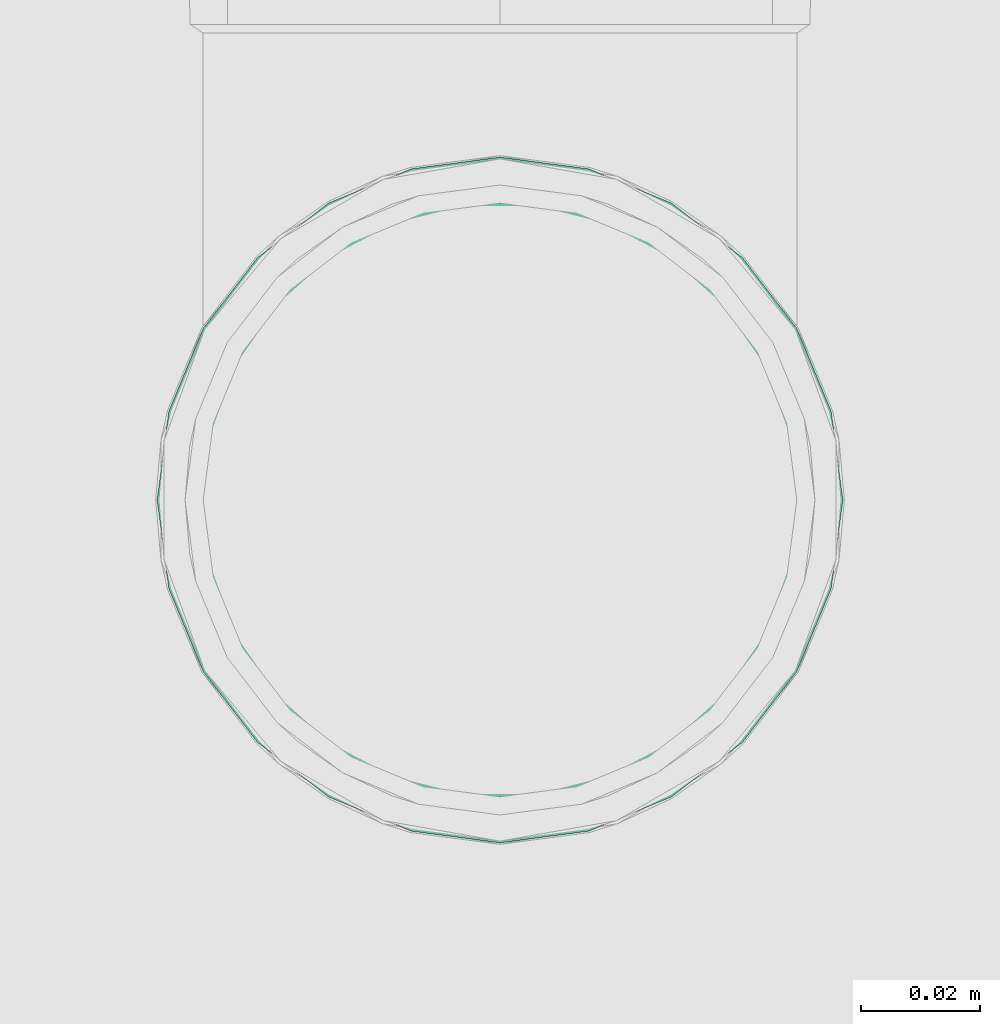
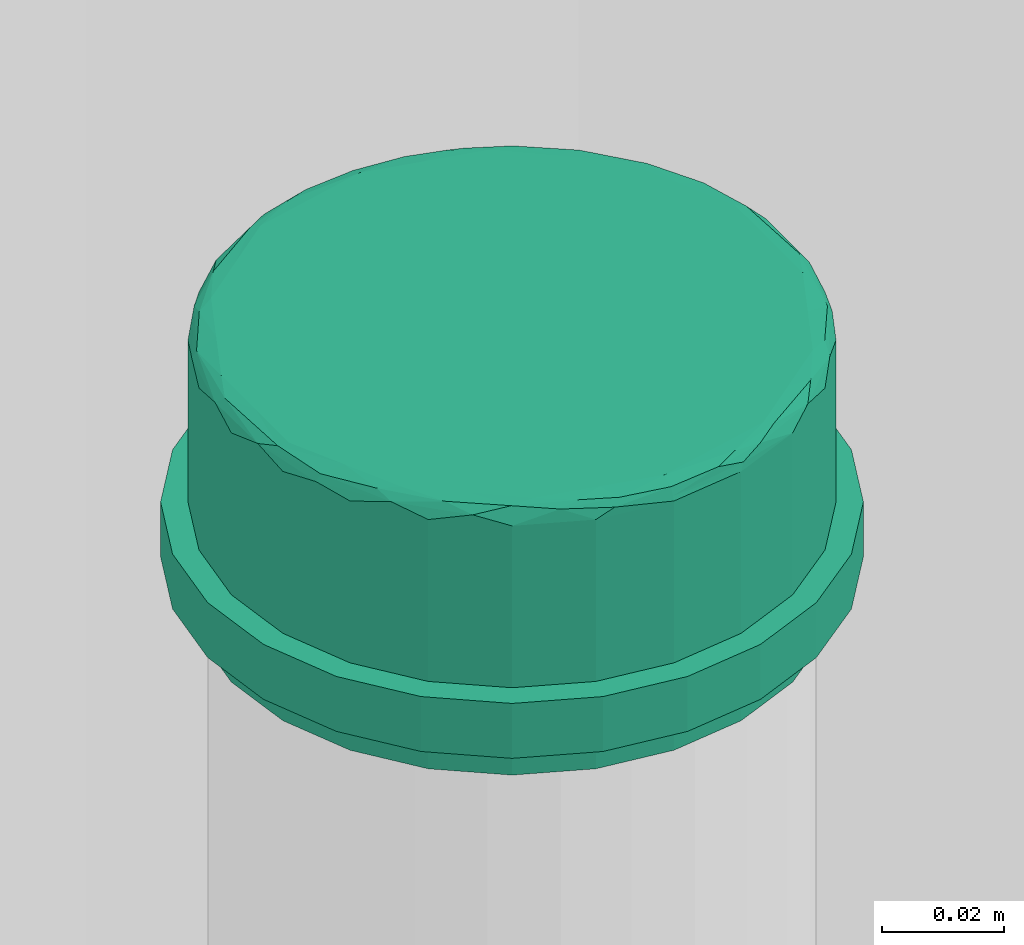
# One storey, part 178 of 589: 1 flow fitting.
"""IFC2X3 building model written with IfcOpenShell, lengths in millimetres."""

from ifc_helpers import new_model, entity, si_unit, converted_unit, derived_unit, direction, frame, origin, place, context, subcontext, project, spatial, faceted_brep, source, transform, mapped, material, type_object, type_shapes, element, save


model = new_model("IFC2X3")

# Units and contexts
model_context = context("Model", 3, precision=0.01, world=origin(), true_north=direction((6.123031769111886e-17, 1.0)))
body_context = subcontext(model_context, "Body", "Model", "MODEL_VIEW")
ifc_project = project(units=[si_unit("LENGTHUNIT", "METRE", prefix="MILLI"), si_unit("AREAUNIT", "SQUARE_METRE"), si_unit("VOLUMEUNIT", "CUBIC_METRE"), converted_unit("PLANEANGLEUNIT", "DEGREE", entity("IfcRatioMeasure", 0.017453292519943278), si_unit("PLANEANGLEUNIT", "RADIAN"), dimensions=[0, 0, 0, 0, 0, 0, 0]), si_unit("MASSUNIT", "GRAM", prefix="KILO"), derived_unit("MASSDENSITYUNIT", [(si_unit("MASSUNIT", "GRAM", prefix="KILO"), 1), (si_unit("LENGTHUNIT", "METRE"), -3)]), derived_unit("IONCONCENTRATIONUNIT", [(si_unit("MASSUNIT", "GRAM", prefix="KILO"), 1), (si_unit("LENGTHUNIT", "METRE"), -3)]), derived_unit("MOMENTOFINERTIAUNIT", [(si_unit("LENGTHUNIT", "METRE"), 4)]), si_unit("TIMEUNIT", "SECOND"), si_unit("FREQUENCYUNIT", "HERTZ"), si_unit("THERMODYNAMICTEMPERATUREUNIT", "DEGREE_CELSIUS"), derived_unit("THERMALTRANSMITTANCEUNIT", [(si_unit("MASSUNIT", "GRAM", prefix="KILO"), 1), (si_unit("THERMODYNAMICTEMPERATUREUNIT", "KELVIN"), -1), (si_unit("TIMEUNIT", "SECOND"), -3)]), derived_unit("THERMALCONDUCTANCEUNIT", [(si_unit("MASSUNIT", "GRAM", prefix="KILO"), 1), (si_unit("THERMODYNAMICTEMPERATUREUNIT", "KELVIN"), -1), (si_unit("TIMEUNIT", "SECOND"), -3), (si_unit("LENGTHUNIT", "METRE"), 1)]), derived_unit("VOLUMETRICFLOWRATEUNIT", [(si_unit("LENGTHUNIT", "METRE"), 3), (si_unit("TIMEUNIT", "SECOND"), -1)]), derived_unit("MASSFLOWRATEUNIT", [(si_unit("MASSUNIT", "GRAM", prefix="KILO"), 1), (si_unit("TIMEUNIT", "SECOND"), -1)]), derived_unit("ROTATIONALFREQUENCYUNIT", [(si_unit("TIMEUNIT", "SECOND"), -1)]), si_unit("ELECTRICCURRENTUNIT", "AMPERE"), si_unit("ELECTRICVOLTAGEUNIT", "VOLT"), si_unit("POWERUNIT", "WATT"), si_unit("FORCEUNIT", "NEWTON", prefix="KILO"), si_unit("ILLUMINANCEUNIT", "LUX"), si_unit("LUMINOUSFLUXUNIT", "LUMEN"), si_unit("LUMINOUSINTENSITYUNIT", "CANDELA"), derived_unit("USERDEFINED", [(si_unit("MASSUNIT", "GRAM", prefix="KILO"), -1), (si_unit("LENGTHUNIT", "METRE"), -2), (si_unit("TIMEUNIT", "SECOND"), 3), (si_unit("LUMINOUSFLUXUNIT", "LUMEN"), 1)]), derived_unit("USERDEFINED", [(si_unit("MASSUNIT", "GRAM", prefix="KILO"), 1), (si_unit("TIMEUNIT", "SECOND"), -3), (si_unit("LENGTHUNIT", "METRE"), 3), (si_unit("ELECTRICCURRENTUNIT", "AMPERE"), -2)]), derived_unit("SOUNDPOWERUNIT", [(si_unit("MASSUNIT", "GRAM", prefix="KILO"), 1), (si_unit("TIMEUNIT", "SECOND"), -3), (si_unit("LENGTHUNIT", "METRE"), 2)]), derived_unit("SOUNDPRESSUREUNIT", [(si_unit("MASSUNIT", "GRAM", prefix="KILO"), 1), (si_unit("LENGTHUNIT", "METRE"), -1), (si_unit("TIMEUNIT", "SECOND"), -2)]), derived_unit("LINEARVELOCITYUNIT", [(si_unit("LENGTHUNIT", "METRE"), 1), (si_unit("TIMEUNIT", "SECOND"), -1)]), si_unit("PRESSUREUNIT", "PASCAL"), derived_unit("USERDEFINED", [(si_unit("MASSUNIT", "GRAM", prefix="KILO"), 1), (si_unit("LENGTHUNIT", "METRE"), -2), (si_unit("TIMEUNIT", "SECOND"), -2)]), derived_unit("LINEARFORCEUNIT", [(si_unit("MASSUNIT", "GRAM", prefix="KILO"), 1), (si_unit("TIMEUNIT", "SECOND"), -2)]), derived_unit("PLANARFORCEUNIT", [(si_unit("MASSUNIT", "GRAM", prefix="KILO"), 1), (si_unit("LENGTHUNIT", "METRE"), -1), (si_unit("TIMEUNIT", "SECOND"), -2)]), derived_unit("SPECIFICHEATCAPACITYUNIT", [(si_unit("THERMODYNAMICTEMPERATUREUNIT", "KELVIN"), -1), (si_unit("LENGTHUNIT", "METRE"), 2), (si_unit("TIMEUNIT", "SECOND"), -2)]), derived_unit("HEATINGVALUEUNIT", [(si_unit("LENGTHUNIT", "METRE"), 2), (si_unit("TIMEUNIT", "SECOND"), -2)]), derived_unit("VAPORPERMEABILITYUNIT", [(si_unit("LENGTHUNIT", "METRE"), -1), (si_unit("TIMEUNIT", "SECOND"), 1)]), derived_unit("DYNAMICVISCOSITYUNIT", [(si_unit("MASSUNIT", "GRAM", prefix="KILO"), 1), (si_unit("TIMEUNIT", "SECOND"), -1), (si_unit("LENGTHUNIT", "METRE"), -1)]), derived_unit("THERMALEXPANSIONCOEFFICIENTUNIT", [(si_unit("THERMODYNAMICTEMPERATUREUNIT", "KELVIN"), -1)]), derived_unit("MODULUSOFELASTICITYUNIT", [(si_unit("MASSUNIT", "GRAM", prefix="KILO"), 1), (si_unit("LENGTHUNIT", "METRE"), -1), (si_unit("TIMEUNIT", "SECOND"), -2)]), derived_unit("ISOTHERMALMOISTURECAPACITYUNIT", [(si_unit("LENGTHUNIT", "METRE"), 3), (si_unit("MASSUNIT", "GRAM", prefix="KILO"), -1)]), derived_unit("MOISTUREDIFFUSIVITYUNIT", [(si_unit("TIMEUNIT", "SECOND"), -1), (si_unit("LENGTHUNIT", "METRE"), 2)])], contexts=[model_context])

# Site, building, storey
site_placement = place(None, origin())
site = spatial("IfcSite", under=ifc_project, at=site_placement, Name="Default", CompositionType="ELEMENT")
building_placement = place(site_placement, origin())
building = spatial("IfcBuilding", under=site, at=building_placement, CompositionType="ELEMENT")
storey_placement = place(building_placement, frame((0.0, 0.0, 100.0)))
storey = spatial("IfcBuildingStorey", under=building, at=storey_placement, Name="TÉRREO", CompositionType="ELEMENT", Elevation=100.0)

# Flow fitting
ifc_material = material(Name="PVC Série Normal")
pipe_fitting_type = type_object("IfcPipeFittingType", Name="PVC Esgoto_Cap_Rodrigo MEP:a. Série Normal", PredefinedType="NOTDEFINED", material=ifc_material)
shared_shape = source(origin(), body_context, "Body", "Brep", [
    faceted_brep([(5.21, 25.0, -43.30127018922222), (5.21, 37.65343609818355, -37.65343609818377), (5.21, 26.624999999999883, -46.11585275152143), (5.21, 12.940952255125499, -48.29629131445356), (5.21, 35.355339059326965, -35.3553390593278), (5.21, 46.115852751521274, -26.62500000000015), (5.21, 43.30127018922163, -25.0), (5.21, 48.296291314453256, -12.940952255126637), (5.21, 51.435550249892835, -13.782114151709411), (5.21, 50.0, 0.0), (5.21, 53.25, 0.0), (5.21, 48.29629131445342, 12.94095225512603), (5.21, 51.435550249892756, 13.78211415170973), (5.21, 43.301270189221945, 25.0), (5.21, 46.11585275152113, 26.62500000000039), (5.21, 35.35533905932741, 35.355339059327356), (5.21, 37.65343609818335, 37.65343609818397), (5.21, 25.0, 43.30127018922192), (5.21, 26.624999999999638, 46.11585275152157), (5.21, 12.940952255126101, 48.2962913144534), (5.21, 13.78211415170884, 51.43555024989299), (5.21, 0.0, 50.0), (5.21, 0.0, 53.25), (5.21, -12.940952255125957, 48.29629131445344), (5.21, -13.782114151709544, 51.435550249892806), (5.21, -25.0, 43.30127018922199), (5.21, -26.625000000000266, 46.1158527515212), (5.21, -35.35533905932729, 35.35533905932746), (5.21, -37.653436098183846, 37.65343609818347), (5.21, -43.301270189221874, 25.0), (5.21, -46.11585275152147, 26.6249999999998), (5.21, -51.43555024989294, 13.782114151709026), (5.21, -48.29629131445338, 12.940952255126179), (5.21, -53.25, 0.0), (5.21, -50.0, 0.0), (5.21, -51.435550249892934, -13.782114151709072), (5.21, -48.29629131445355, -12.940952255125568), (5.21, -46.11585275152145, -26.624999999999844), (5.21, -43.3012701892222, -25.0), (5.21, -37.65343609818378, -37.65343609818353), (5.21, -35.35533905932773, -35.35533905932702), (5.21, -26.625000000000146, -46.115852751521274), (5.21, -25.0, -43.301270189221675), (5.21, -13.782114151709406, -51.435550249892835), (5.21, -12.940952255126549, -48.296291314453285), (5.21, 0.0, -53.25), (5.21, 0.0, -50.0), (5.21, 13.78211415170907, -51.435550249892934), (17.53, 28.875000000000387, -50.012967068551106), (17.53, 40.83541661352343, -40.83541661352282), (17.53, 25.0, -43.30127018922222), (17.53, 12.940952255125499, -48.29629131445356), (17.53, 14.946799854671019, -55.782216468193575), (17.53, 35.355339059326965, -35.3553390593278), (17.53, 50.01296706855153, -28.87499999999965), (17.53, 43.30127018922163, -25.0), (17.53, 48.296291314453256, -12.940952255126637), (17.53, 55.782216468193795, -14.946799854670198), (17.53, 50.0, 0.0), (17.53, 57.75, 0.0), (17.53, 48.29629131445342, 12.94095225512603), (17.53, 55.782216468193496, 14.946799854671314), (17.53, 43.301270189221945, 25.0), (17.53, 50.01296706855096, 28.875000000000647), (17.53, 35.35533905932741, 35.355339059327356), (17.53, 40.83541661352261, 40.83541661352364), (17.53, 25.0, 43.30127018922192), (17.53, 28.874999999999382, 50.012967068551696), (17.53, 12.940952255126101, 48.2962913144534), (17.53, 14.946799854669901, 55.78221646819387), (17.53, 0.0, 50.0), (17.53, 0.0, 57.75), (17.53, -12.940952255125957, 48.29629131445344), (17.53, -14.94679985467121, 55.78221646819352), (17.53, -25.0, 43.30127018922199), (17.53, -28.8750000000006, 50.012967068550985), (17.53, -35.35533905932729, 35.35533905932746), (17.53, -40.83541661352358, 40.83541661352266), (17.53, -43.301270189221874, 25.0), (17.53, -50.01296706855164, 28.874999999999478), (17.53, -55.78221646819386, 14.946799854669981), (17.53, -48.29629131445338, 12.940952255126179), (17.53, -57.75, 0.0), (17.53, -50.0, 0.0), (17.53, -55.78221646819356, -14.946799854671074), (17.53, -48.29629131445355, -12.940952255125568), (17.53, -50.012967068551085, -28.875000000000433), (17.53, -43.3012701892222, -25.0), (17.53, -40.83541661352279, -40.83541661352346), (17.53, -35.35533905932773, -35.35533905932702), (17.53, -28.8749999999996, -50.01296706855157), (17.53, -25.0, -43.301270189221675), (17.53, -14.946799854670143, -55.782216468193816), (17.53, -12.940952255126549, -48.296291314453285), (17.53, 0.0, -57.75), (17.53, 0.0, -50.0), (6.5125, 57.75, 0.0), (6.5125, 55.78221646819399, -14.946799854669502), (6.512499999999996, 50.01296706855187, -28.874999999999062), (6.5125, 40.8354166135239, -40.83541661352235), (6.5125, 28.87500000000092, -50.01296706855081), (6.5125, 14.946799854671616, -55.78221646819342), (6.5125, 0.0, -57.75), (6.512500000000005, -14.94679985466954, -55.78221646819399), (6.512500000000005, -28.87499999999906, -50.01296706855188), (6.512500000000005, -40.835416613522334, -40.83541661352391), (6.512500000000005, -50.01296706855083, -28.875000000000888), (6.5125, -55.782216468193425, -14.94679985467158), (6.5125, -57.75, 0.0), (6.512500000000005, -55.78221646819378, 14.946799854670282), (6.512499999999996, -50.01296706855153, 28.87499999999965), (6.512499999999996, -40.83541661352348, 40.835416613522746), (6.5125, -28.87500000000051, 50.012967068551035), (6.512499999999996, -14.94679985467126, 55.7822164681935), (6.5125, 0.0, 57.75), (6.5125, 14.946799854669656, 55.782216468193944), (6.512500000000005, 28.874999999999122, 50.01296706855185), (6.512500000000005, 40.835416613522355, 40.835416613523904), (6.512499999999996, 50.012967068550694, 28.875000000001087), (6.5125, 55.78221646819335, 14.946799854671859)], [[[0, 1, 2]], [[3, 0, 2]], [[4, 1, 0]], [[1, 4, 5]], [[6, 5, 4]], [[7, 5, 6]], [[5, 7, 8]], [[7, 9, 8]], [[10, 8, 9]], [[10, 9, 11]], [[11, 12, 10]], [[13, 12, 11]], [[12, 13, 14]], [[15, 14, 13]], [[16, 14, 15]], [[16, 15, 17]], [[17, 18, 16]], [[19, 18, 17]], [[18, 19, 20]], [[21, 20, 19]], [[22, 20, 21]], [[23, 22, 21]], [[24, 22, 23]], [[25, 24, 23]], [[24, 25, 26]], [[26, 25, 27]], [[28, 26, 27]], [[27, 29, 28]], [[28, 29, 30]], [[31, 30, 29]], [[29, 32, 31]], [[31, 32, 33]], [[32, 34, 33]], [[33, 34, 35]], [[34, 36, 35]], [[37, 35, 36]], [[36, 38, 37]], [[39, 37, 38]], [[40, 39, 38]], [[40, 41, 39]], [[41, 40, 42]], [[43, 41, 42]], [[42, 44, 43]], [[43, 44, 45]], [[44, 46, 45]], [[46, 3, 47]], [[45, 46, 47]], [[2, 47, 3]], [[48, 49, 50]], [[48, 50, 51]], [[51, 52, 48]], [[50, 49, 53]], [[54, 53, 49]], [[55, 53, 54]], [[56, 55, 54]], [[56, 54, 57]], [[56, 57, 58]], [[58, 57, 59]], [[60, 58, 59]], [[60, 59, 61]], [[62, 60, 61]], [[62, 61, 63]], [[64, 62, 63]], [[63, 65, 64]], [[65, 66, 64]], [[65, 67, 66]], [[66, 67, 68]], [[69, 68, 67]], [[68, 69, 70]], [[70, 69, 71]], [[70, 71, 72]], [[72, 71, 73]], [[72, 73, 74]], [[75, 74, 73]], [[75, 76, 74]], [[76, 75, 77]], [[78, 76, 77]], [[79, 78, 77]], [[80, 78, 79]], [[81, 78, 80]], [[81, 80, 82]], [[83, 81, 82]], [[84, 83, 82]], [[84, 85, 83]], [[85, 84, 86]], [[87, 85, 86]], [[87, 86, 88]], [[87, 88, 89]], [[88, 90, 89]], [[89, 90, 91]], [[91, 90, 92]], [[92, 93, 91]], [[94, 93, 92]], [[52, 95, 94]], [[94, 95, 93]], [[52, 51, 95]], [[10, 96, 97, 8]], [[8, 97, 98, 5]], [[2, 1, 99, 100]], [[98, 99, 1, 5]], [[47, 2, 100, 101]], [[102, 45, 47, 101]], [[43, 103, 104, 41]], [[41, 104, 105, 39]], [[35, 37, 106, 107]], [[105, 106, 37, 39]], [[33, 35, 107, 108]], [[43, 45, 102, 103]], [[33, 108, 109, 31]], [[31, 109, 110, 30]], [[26, 28, 111, 112]], [[110, 111, 28, 30]], [[24, 26, 112, 113]], [[114, 22, 24, 113]], [[20, 115, 116, 18]], [[18, 116, 117, 16]], [[12, 14, 118, 119]], [[117, 118, 14, 16]], [[10, 12, 119, 96]], [[20, 22, 114, 115]], [[57, 97, 96, 59]], [[54, 98, 97, 57]], [[99, 49, 48, 100]], [[54, 49, 99, 98]], [[100, 48, 52, 101]], [[101, 52, 94, 102]], [[90, 104, 103, 92]], [[88, 105, 104, 90]], [[106, 86, 84, 107]], [[88, 86, 106, 105]], [[107, 84, 82, 108]], [[103, 102, 94, 92]], [[80, 109, 108, 82]], [[79, 110, 109, 80]], [[111, 77, 75, 112]], [[79, 77, 111, 110]], [[112, 75, 73, 113]], [[113, 73, 71, 114]], [[67, 116, 115, 69]], [[65, 117, 116, 67]], [[118, 63, 61, 119]], [[65, 63, 118, 117]], [[119, 61, 59, 96]], [[115, 114, 71, 69]], [[34, 83, 85, 36]], [[36, 85, 87, 38]], [[42, 40, 89, 91]], [[89, 40, 38, 87]], [[44, 42, 91, 93]], [[44, 93, 95, 46]], [[46, 95, 51, 3]], [[3, 51, 50, 0]], [[6, 4, 53, 55]], [[53, 4, 0, 50]], [[7, 6, 55, 56]], [[7, 56, 58, 9]], [[9, 58, 60, 11]], [[11, 60, 62, 13]], [[17, 15, 64, 66]], [[64, 15, 13, 62]], [[19, 17, 66, 68]], [[19, 68, 70, 21]], [[21, 70, 72, 23]], [[23, 72, 74, 25]], [[29, 27, 76, 78]], [[76, 27, 25, 74]], [[32, 29, 78, 81]], [[32, 81, 83, 34]]]),
    faceted_brep([(53.24999999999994, 0.0, 0.0), (53.24999999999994, -45.048443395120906, -21.69418695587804), (53.24999999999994, -38.111466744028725, -30.39288053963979), (53.24999999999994, -31.17449009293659, -39.09157412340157), (53.24999999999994, -21.1502683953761, -43.91898486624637), (53.24999999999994, -11.126046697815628, -48.746395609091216), (53.24999999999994, 0.0, -48.746395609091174), (53.24999999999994, -47.524221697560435, -10.847093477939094), (53.24999999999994, -50.0, 0.0), (53.24999999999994, 11.126046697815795, -48.746395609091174), (53.24999999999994, 21.150268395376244, -43.9189848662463), (53.24999999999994, 31.174490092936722, -39.09157412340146), (53.24999999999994, 38.11146674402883, -30.392880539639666), (53.24999999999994, 45.04844339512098, -21.694186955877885), (53.24999999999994, 47.52422169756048, -10.847093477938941), (53.24999999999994, 50.0, 0.0), (53.24999999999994, 47.52422169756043, 10.847093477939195), (53.24999999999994, -47.5242216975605, 10.84709347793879), (53.24999999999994, -45.04844339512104, 21.694186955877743), (53.24999999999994, -38.111466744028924, 30.392880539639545), (53.24999999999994, -31.174490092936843, 39.091574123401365), (53.24999999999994, -21.150268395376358, 43.91898486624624), (53.24999999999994, -11.126046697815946, 48.74639560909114), (53.24999999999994, 45.04844339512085, 21.694186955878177), (53.24999999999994, 38.1114667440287, 30.392880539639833), (53.24999999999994, 31.174490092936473, 39.09157412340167), (53.24999999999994, 21.150268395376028, 43.9189848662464), (53.24999999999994, 11.126046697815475, 48.746395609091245), (53.24999999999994, 0.0, 48.74639560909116), (50.0, -50.0, 0.0), (50.0, 0.0, 0.0), (50.0, -48.2962913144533, -12.940952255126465), (50.0, -48.29629131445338, 12.940952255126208), (50.0, -43.30127018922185, 25.0), (50.0, -35.35533905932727, 35.355339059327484), (50.0, -25.0, 43.301270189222), (50.0, -12.94095225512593, 48.29629131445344), (50.0, 0.0, 50.0), (50.0, 12.940952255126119, 48.29629131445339), (50.0, 25.0, 43.301270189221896), (50.0, 35.35533905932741, 35.35533905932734), (50.0, 43.30127018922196, 25.0), (50.0, 48.29629131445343, 12.94095225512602), (50.0, 50.0, 0.0), (50.0, 48.29629131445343, -12.940952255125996), (50.0, 43.301270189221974, -25.0), (50.0, 35.35533905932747, -35.355339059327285), (50.0, 25.0, -43.30127018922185), (50.0, 12.94095225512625, -48.296291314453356), (50.0, 0.0, -50.0), (50.0, -12.940952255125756, -48.2962913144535), (50.0, -25.0, -43.301270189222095), (50.0, -35.355339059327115, -35.35533905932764), (50.0, -43.30127018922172, -25.0), (53.00458680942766, 48.81487662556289, -15.573573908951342), (52.63393157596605, 51.09920137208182, -9.10430348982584), (52.858005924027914, 44.586781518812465, -25.867905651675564), (51.62732470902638, 42.169557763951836, -31.795701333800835), (52.29182462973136, 48.73853311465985, -18.981587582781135), (52.855548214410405, 29.183345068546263, -42.49622488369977), (52.883936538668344, 38.04021623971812, -34.713603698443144), (50.0, 46.11585275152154, -26.62499999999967), (51.76459863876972, 6.955689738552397, -52.26844157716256), (52.85724259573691, -5.592315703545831, -51.244520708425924), (51.6273247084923, -6.956672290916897, -52.35306042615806), (51.54479934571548, 51.820871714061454, -10.426507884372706), (50.0, 0.0, -53.24999999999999), (50.0, 13.782114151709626, -51.43555024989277), (50.0, 37.653436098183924, -37.65343609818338), (50.0, 53.24999999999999, 0.0), (50.819679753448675, 52.9104775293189, 0.0), (52.298097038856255, 52.29809703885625, 0.0), (50.0, 51.43555024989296, -13.782114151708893), (51.76459863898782, 32.391409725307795, -41.60730922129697), (51.115246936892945, 20.39612755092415, -48.975326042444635), (50.0, 26.625000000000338, -46.11585275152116), (52.35926530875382, 20.354846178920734, -48.106155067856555), (51.6273247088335, -42.169557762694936, -31.79570133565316), (50.0, -37.653436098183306, -37.65343609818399), (51.7645986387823, -32.39140972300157, -41.60730922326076), (52.3592653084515, -20.354846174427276, -48.106155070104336), (52.85554821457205, -29.183345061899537, -42.49622488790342), (50.0, -13.782114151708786, -51.435550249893), (52.835996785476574, 10.495005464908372, -50.508490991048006), (50.0, -26.6249999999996, -46.11585275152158), (51.115246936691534, -20.396127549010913, -48.97532604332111), (52.298097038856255, -52.29809703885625, 0.0), (52.38411664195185, -51.331745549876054, -9.529080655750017), (52.58172941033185, -51.613347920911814, 0.0), (52.88393653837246, -38.0402162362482, -34.7136037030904), (52.94430490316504, -45.8256647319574, -23.22733347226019), (50.819679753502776, -52.91047752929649, 0.0), (50.0, -46.1158527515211, -26.625000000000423), (52.29182462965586, -48.738533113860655, -18.98158758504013), (51.3494443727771, -50.935684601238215, -14.489920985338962), (52.97645390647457, -49.43475697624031, -13.726455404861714), (52.5817294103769, 51.613347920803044, 0.0), (50.0, -51.43555024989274, -13.782114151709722), (50.0, -53.24999999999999, 0.0), (53.00458680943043, -48.81487662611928, 15.573573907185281), (52.633931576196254, -51.099201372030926, 9.104303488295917), (52.85800592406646, -44.5867815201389, 25.867905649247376), (51.62732470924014, -42.16955776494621, 31.79570133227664), (52.29182462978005, -48.73853311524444, 18.981587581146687), (52.855548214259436, -29.183345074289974, 42.49622488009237), (52.88393653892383, -38.04021624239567, 34.713603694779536), (50.0, -46.115852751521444, 26.62499999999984), (51.764598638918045, -6.955689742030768, 52.268441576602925), (52.85724259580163, 5.592315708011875, 51.24452070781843), (51.62732470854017, 6.956672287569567, 52.353060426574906), (51.54479934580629, -51.82087171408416, 10.426507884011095), (50.0, 0.0, 53.24999999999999), (50.0, -13.782114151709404, 51.43555024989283), (50.0, -37.65343609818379, 37.65343609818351), (50.0, -51.43555024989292, 13.78211415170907), (52.35926530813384, 20.35484616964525, 48.10615507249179), (51.62732470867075, 42.1695577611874, 31.795701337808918), (50.0, 37.653436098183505, 37.65343609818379), (51.76459863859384, 32.39140972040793, 41.607309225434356), (52.35926530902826, -20.354846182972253, 48.10615506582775), (51.11524693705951, -20.396127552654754, 48.97532604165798), (51.76459863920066, -32.39140972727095, 41.60730921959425), (50.0, -26.625000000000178, 46.115852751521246), (52.83599678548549, -10.495005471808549, 50.50849098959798), (50.0, 26.624999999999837, 46.115852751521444), (50.0, 13.782114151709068, 51.43555024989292), (51.115246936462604, 20.39612754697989, 48.97532604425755), (52.38411664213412, 51.33174554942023, 9.529080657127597), (52.88393653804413, 38.0402162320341, 34.71360370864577), (52.94430490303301, 45.825664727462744, 23.227333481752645), (52.97645390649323, 49.43475697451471, 13.72645541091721), (50.0, 46.11585275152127, 26.625000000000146), (52.29182462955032, 48.73853311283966, 18.981587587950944), (51.34944437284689, 50.93568460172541, 14.489920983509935), (52.855548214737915, 29.183345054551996, 42.496224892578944), (50.0, 51.43555024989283, 13.782114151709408), (0.0, -26.625000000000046, -46.11585275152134), (0.0, -37.65343609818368, -37.65343609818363), (0.0, -25.0, -43.30127018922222), (0.0, -12.940952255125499, -48.29629131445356), (0.0, -13.7821141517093, -51.43555024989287), (0.0, -35.355339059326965, -35.3553390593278), (0.0, -46.11585275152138, -26.62499999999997), (0.0, -43.30127018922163, -25.0), (0.0, -48.296291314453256, -12.940952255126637), (0.0, -51.43555024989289, -13.78211415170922), (0.0, -50.0, 0.0), (0.0, -53.25, 0.0), (0.0, -48.29629131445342, 12.94095225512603), (0.0, -51.43555024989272, 13.782114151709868), (0.0, -43.301270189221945, 25.0), (0.0, -46.11585275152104, 26.625000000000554), (0.0, -35.3553390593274, 35.355339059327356), (0.0, -37.653436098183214, 37.6534360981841), (0.0, -25.0, 43.30127018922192), (0.0, -26.62499999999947, 46.115852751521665), (0.0, -12.940952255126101, 48.2962913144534), (0.0, -13.782114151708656, 51.43555024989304), (0.0, 0.0, 50.0), (0.0, 0.0, 53.25), (0.0, 12.940952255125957, 48.29629131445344), (0.0, 13.782114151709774, 51.435550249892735), (0.0, 25.0, 43.30127018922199), (0.0, 26.625000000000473, 46.11585275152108), (0.0, 35.35533905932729, 35.35533905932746), (0.0, 37.65343609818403, 37.65343609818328), (0.0, 43.301270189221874, 25.0), (0.0, 46.11585275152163, 26.624999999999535), (0.0, 51.43555024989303, 13.782114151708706), (0.0, 48.29629131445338, 12.940952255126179), (0.0, 53.25, 0.0), (0.0, 50.0, 0.0), (0.0, 51.43555024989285, -13.782114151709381), (0.0, 48.29629131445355, -12.940952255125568), (0.0, 46.115852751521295, -26.625000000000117), (0.0, 43.3012701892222, -25.0), (0.0, 37.65343609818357, -37.65343609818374), (0.0, 35.35533905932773, -35.35533905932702), (0.0, 26.624999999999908, -46.11585275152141), (0.0, 25.0, -43.301270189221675), (0.0, 13.782114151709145, -51.43555024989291), (0.0, 12.940952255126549, -48.296291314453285), (0.0, 0.0, -53.25), (0.0, 0.0, -50.0), (5.210000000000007, 53.25, 0.0), (5.209999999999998, -53.25, 0.0)], [[[0, 1, 2]], [[0, 2, 3]], [[0, 3, 4]], [[0, 4, 5]], [[0, 5, 6]], [[0, 7, 1]], [[0, 8, 7]], [[0, 6, 9]], [[0, 9, 10]], [[0, 10, 11]], [[0, 11, 12]], [[0, 12, 13]], [[0, 13, 14]], [[0, 14, 15]], [[0, 15, 16]], [[0, 17, 8]], [[0, 18, 17]], [[0, 19, 18]], [[0, 20, 19]], [[0, 21, 20]], [[0, 22, 21]], [[0, 16, 23]], [[0, 23, 24]], [[0, 24, 25]], [[0, 25, 26]], [[0, 26, 27]], [[0, 27, 28]], [[0, 28, 22]], [[29, 30, 31]], [[29, 32, 30]], [[32, 33, 30]], [[33, 34, 30]], [[35, 30, 34]], [[30, 35, 36]], [[36, 37, 30]], [[38, 30, 37]], [[30, 38, 39]], [[30, 39, 40]], [[41, 30, 40]], [[30, 41, 42]], [[42, 43, 30]], [[30, 43, 44]], [[30, 44, 45]], [[46, 30, 45]], [[47, 30, 46]], [[48, 30, 47]], [[30, 48, 49]], [[30, 49, 50]], [[30, 50, 51]], [[52, 30, 51]], [[53, 30, 52]], [[31, 30, 53]], [[14, 54, 55]], [[56, 57, 58]], [[59, 60, 11]], [[61, 58, 57]], [[62, 63, 64]], [[55, 58, 65]], [[54, 56, 58]], [[66, 67, 62]], [[68, 61, 57]], [[65, 69, 70, 71]], [[61, 72, 58]], [[73, 74, 75]], [[65, 58, 72]], [[76, 74, 73]], [[75, 74, 67]], [[77, 78, 79]], [[68, 57, 73]], [[80, 4, 81]], [[74, 62, 67]], [[56, 12, 60]], [[82, 66, 64]], [[83, 63, 62]], [[83, 62, 76]], [[84, 82, 85]], [[86, 87, 88]], [[6, 63, 83]], [[89, 77, 79]], [[90, 77, 89]], [[85, 64, 80]], [[87, 86, 91]], [[84, 79, 78]], [[64, 66, 62]], [[79, 84, 85]], [[73, 57, 60]], [[80, 64, 63]], [[92, 93, 94]], [[87, 94, 93]], [[88, 87, 95]], [[77, 92, 78]], [[59, 10, 76]], [[3, 89, 81]], [[73, 75, 68]], [[5, 63, 6]], [[73, 60, 59]], [[81, 79, 80]], [[93, 92, 77]], [[90, 2, 1]], [[90, 1, 95]], [[9, 83, 10]], [[73, 59, 76]], [[59, 11, 10]], [[79, 81, 89]], [[63, 5, 80]], [[4, 80, 5]], [[4, 3, 81]], [[62, 74, 76]], [[64, 85, 82]], [[79, 85, 80]], [[69, 65, 72]], [[55, 65, 71]], [[55, 71, 96, 15]], [[55, 15, 14]], [[55, 54, 58]], [[14, 13, 54]], [[89, 3, 2]], [[13, 56, 54]], [[57, 56, 60]], [[1, 7, 8, 95]], [[91, 97, 94]], [[8, 88, 95]], [[95, 87, 93]], [[91, 94, 87]], [[98, 97, 91]], [[92, 94, 97]], [[95, 93, 90]], [[77, 90, 93]], [[90, 89, 2]], [[10, 83, 76]], [[83, 9, 6]], [[12, 56, 13]], [[12, 11, 60]], [[17, 99, 100]], [[101, 102, 103]], [[104, 105, 20]], [[106, 103, 102]], [[107, 108, 109]], [[100, 103, 110]], [[99, 101, 103]], [[111, 112, 107]], [[113, 106, 102]], [[110, 98, 91, 86]], [[106, 114, 103]], [[115, 109, 108]], [[116, 117, 118]], [[119, 120, 121]], [[122, 120, 112]], [[121, 120, 122]], [[113, 102, 121]], [[110, 103, 114]], [[120, 107, 112]], [[101, 19, 105]], [[111, 107, 109]], [[123, 107, 119]], [[124, 125, 126]], [[109, 125, 111]], [[71, 127, 96]], [[28, 108, 123]], [[128, 116, 118]], [[128, 129, 116]], [[126, 109, 115]], [[71, 70, 127]], [[104, 21, 119]], [[121, 122, 113]], [[118, 124, 126]], [[124, 118, 117]], [[96, 127, 130]], [[131, 132, 133]], [[127, 133, 132]], [[121, 102, 105]], [[116, 131, 117]], [[115, 26, 134]], [[25, 128, 134]], [[123, 108, 107]], [[27, 108, 28]], [[121, 105, 104]], [[134, 118, 115]], [[132, 131, 116]], [[129, 24, 23]], [[129, 23, 130]], [[22, 123, 21]], [[121, 104, 119]], [[104, 20, 21]], [[118, 134, 128]], [[108, 27, 115]], [[26, 115, 27]], [[26, 25, 134]], [[107, 120, 119]], [[109, 126, 125]], [[118, 126, 115]], [[98, 110, 114]], [[100, 110, 86]], [[100, 86, 88, 8]], [[100, 8, 17]], [[100, 99, 103]], [[17, 18, 99]], [[128, 25, 24]], [[18, 101, 99]], [[102, 101, 105]], [[23, 16, 15, 130]], [[70, 135, 133]], [[15, 96, 130]], [[130, 127, 132]], [[70, 133, 127]], [[69, 135, 70]], [[131, 133, 135]], [[130, 132, 129]], [[116, 129, 132]], [[129, 128, 24]], [[21, 123, 119]], [[123, 22, 28]], [[19, 101, 18]], [[19, 20, 105]], [[136, 137, 138]], [[136, 138, 139]], [[139, 140, 136]], [[138, 137, 141]], [[142, 141, 137]], [[141, 142, 143]], [[143, 142, 144]], [[145, 144, 142]], [[145, 146, 144]], [[146, 145, 147]], [[148, 146, 147]], [[147, 149, 148]], [[148, 149, 150]], [[151, 150, 149]], [[150, 151, 152]], [[152, 151, 153]], [[154, 152, 153]], [[153, 155, 154]], [[154, 155, 156]], [[157, 156, 155]], [[156, 157, 158]], [[158, 157, 159]], [[158, 159, 160]], [[160, 159, 161]], [[160, 161, 162]], [[163, 162, 161]], [[164, 162, 163]], [[164, 163, 165]], [[165, 166, 164]], [[167, 166, 165]], [[166, 167, 168]], [[168, 169, 166]], [[170, 169, 168]], [[170, 171, 169]], [[172, 171, 170]], [[172, 173, 171]], [[173, 172, 174]], [[174, 175, 173]], [[175, 174, 176]], [[175, 176, 177]], [[176, 178, 177]], [[179, 177, 178]], [[179, 178, 180]], [[180, 181, 179]], [[182, 181, 180]], [[140, 183, 182]], [[182, 183, 181]], [[140, 139, 183]], [[170, 168, 135, 69, 184]], [[131, 167, 165, 117]], [[124, 117, 165, 163]], [[168, 167, 131, 135]], [[124, 163, 161, 125]], [[161, 159, 111, 125]], [[112, 111, 159, 157]], [[155, 122, 112, 157]], [[151, 149, 114, 106]], [[106, 113, 153, 151]], [[113, 122, 155, 153]], [[185, 98, 114, 149, 147]], [[147, 145, 97, 98, 185]], [[142, 137, 78, 92]], [[137, 136, 84, 78]], [[145, 142, 92, 97]], [[84, 136, 140, 82]], [[182, 66, 82, 140]], [[67, 66, 182, 180]], [[178, 75, 67, 180]], [[174, 172, 72, 61]], [[61, 68, 176, 174]], [[68, 75, 178, 176]], [[184, 69, 72, 172, 170]], [[43, 171, 173, 44]], [[44, 173, 175, 45]], [[49, 48, 181, 183]], [[45, 175, 177, 46]], [[177, 179, 47, 46]], [[179, 181, 48, 47]], [[51, 50, 139, 138]], [[51, 138, 141, 52]], [[31, 53, 143, 144]], [[141, 143, 53, 52]], [[29, 31, 144, 146]], [[183, 139, 50, 49]], [[29, 146, 148, 32]], [[32, 148, 150, 33]], [[152, 34, 33, 150]], [[154, 35, 34, 152]], [[36, 156, 158, 37]], [[35, 154, 156, 36]], [[39, 38, 160, 162]], [[39, 162, 164, 40]], [[42, 41, 166, 169]], [[164, 166, 41, 40]], [[43, 42, 169, 171]], [[158, 160, 38, 37]]]),
])
type_shapes(pipe_fitting_type, [shared_shape])
flow_fitting_placement = place(storey_placement, frame((20055.667196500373, -7994.002126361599, -443.15017895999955), z_axis=(-1.0, 0.0, 0.0), x_axis=(0.0, 0.0, 1.0)))
element("IfcFlowFitting", 1, at=flow_fitting_placement, inside=storey, type_object=pipe_fitting_type, material=ifc_material, Name="PVC Esgoto_Cap_Rodrigo MEP:a. Série Normal", ObjectType="PVC Esgoto_Cap_Rodrigo MEP:a. Série Normal", context=body_context, shape_type="MappedRepresentation", body=[
    mapped(shared_shape, transform((0.0, 0.0, 0.0), scale=1.0)),
])

save(model, "model.ifc")
